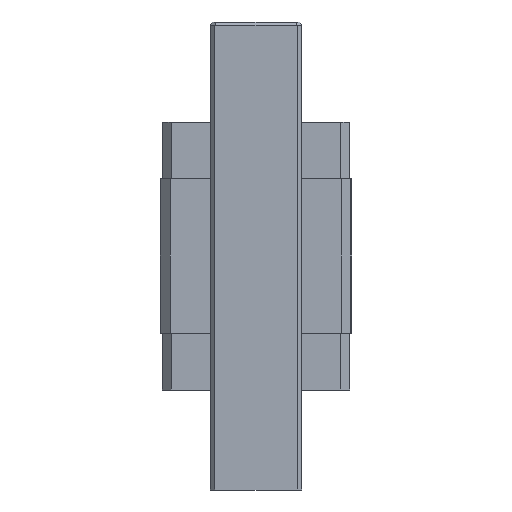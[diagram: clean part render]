
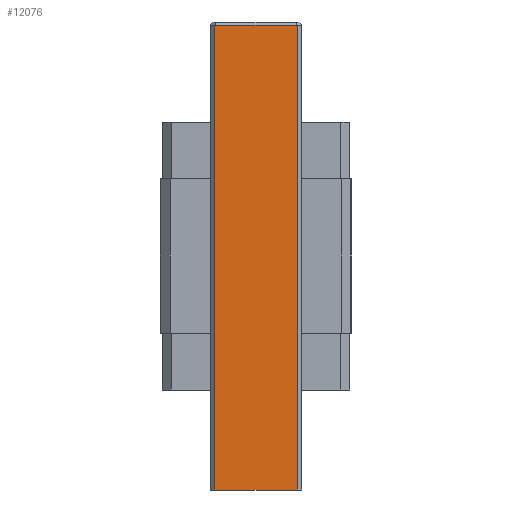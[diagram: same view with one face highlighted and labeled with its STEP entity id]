
A CAD part, front view. The second image highlights one B-rep face of the part: STEP entity #12076.
In plain terms, the highlighted planar face has unit normal (0, -1, 0).
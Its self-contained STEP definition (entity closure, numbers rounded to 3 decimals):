
#11037=DIRECTION('',(1.,0.,0.));
#11038=VECTOR('',#11037,20.6);
#11039=CARTESIAN_POINT('',(-10.3,-14.6,-58.5));
#11040=LINE('',#11039,#11038);
#11310=DIRECTION('',(1.,0.,0.));
#11311=VECTOR('',#11310,20.6);
#11312=CARTESIAN_POINT('',(-10.3,-14.6,57.634));
#11313=LINE('',#11312,#11311);
#11314=DIRECTION('',(0.,0.,1.));
#11315=VECTOR('',#11314,116.134);
#11316=CARTESIAN_POINT('',(-10.3,-14.6,-58.5));
#11317=LINE('',#11316,#11315);
#11322=DIRECTION('',(0.,0.,1.));
#11323=VECTOR('',#11322,116.134);
#11324=CARTESIAN_POINT('',(10.3,-14.6,-58.5));
#11325=LINE('',#11324,#11323);
#11508=CARTESIAN_POINT('',(-10.3,-14.6,-58.5));
#11509=VERTEX_POINT('',#11508);
#11510=CARTESIAN_POINT('',(10.3,-14.6,-58.5));
#11511=VERTEX_POINT('',#11510);
#11572=CARTESIAN_POINT('',(10.3,-14.6,57.634));
#11573=VERTEX_POINT('',#11572);
#11576=CARTESIAN_POINT('',(-10.3,-14.6,57.634));
#11577=VERTEX_POINT('',#11576);
#12064=CARTESIAN_POINT('',(-10.3,-14.6,-58.5));
#12065=DIRECTION('',(0.,-1.,0.));
#12066=DIRECTION('',(1.,0.,0.));
#12067=AXIS2_PLACEMENT_3D('',#12064,#12065,#12066);
#12068=PLANE('',#12067);
#12069=ORIENTED_EDGE('',*,*,#12055,.T.);
#12071=ORIENTED_EDGE('',*,*,#12070,.F.);
#12072=ORIENTED_EDGE('',*,*,#11657,.F.);
#12073=ORIENTED_EDGE('',*,*,#12030,.T.);
#12074=EDGE_LOOP('',(#12069,#12071,#12072,#12073));
#12075=FACE_OUTER_BOUND('',#12074,.F.);
#11657=EDGE_CURVE('',#11509,#11511,#11040,.T.);
#12030=EDGE_CURVE('',#11509,#11577,#11317,.T.);
#12055=EDGE_CURVE('',#11577,#11573,#11313,.T.);
#12070=EDGE_CURVE('',#11511,#11573,#11325,.T.);
#12076=ADVANCED_FACE('',(#12075),#12068,.T.);
